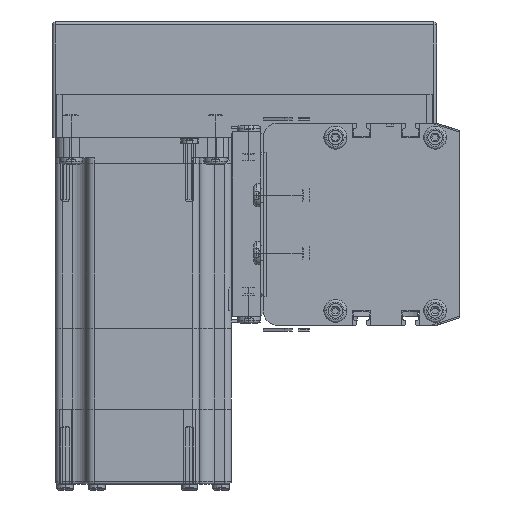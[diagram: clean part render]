
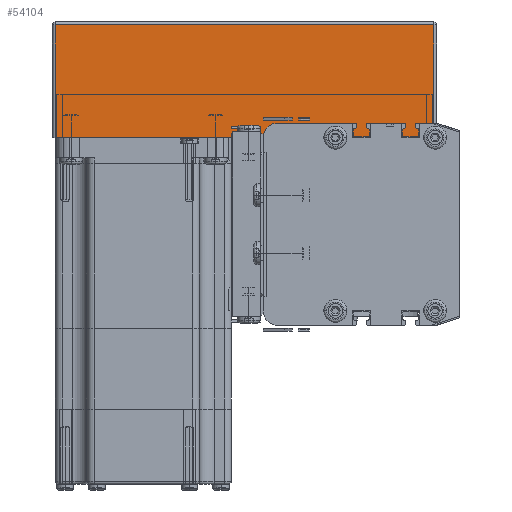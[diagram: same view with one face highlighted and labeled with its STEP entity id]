
A CAD part, left-side view. The second image highlights one B-rep face of the part: STEP entity #54104.
In plain terms, the highlighted planar face has unit normal (-1, 0, 0) as drawn and (0, -1, 0) by its records, which use the part's own axes.
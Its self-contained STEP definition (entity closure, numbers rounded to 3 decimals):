
#49416 = CARTESIAN_POINT ( 'NONE',  ( 132., 0., 39. ) ) ;
#49742 = CARTESIAN_POINT ( 'NONE',  ( 132., 0., 0. ) ) ;
#50566 = LINE ( 'NONE', #50693, #50691 ) ;
#50690 = DIRECTION ( 'NONE',  ( 1., 0., 0. ) ) ;
#50691 = VECTOR ( 'NONE', #50690, 1000. ) ;
#50693 = CARTESIAN_POINT ( 'NONE',  ( 0., 0., 0. ) ) ;
#54104 = ADVANCED_FACE ( 'NONE', ( #79396 ), #79459, .F. ) ;
#54107 = VERTEX_POINT ( 'NONE', #79451 ) ;
#54110 = EDGE_CURVE ( 'NONE', #54107, #54138, #79443, .T. ) ;
#54114 = EDGE_CURVE ( 'NONE', #55395, #55238, #79435, .T. ) ;
#54116 = ORIENTED_EDGE ( 'NONE', *, *, #54110, .T. ) ;
#54138 = VERTEX_POINT ( 'NONE', #79462 ) ;
#54150 = EDGE_CURVE ( 'NONE', #55238, #54107, #79500, .T. ) ;
#54305 = ORIENTED_EDGE ( 'NONE', *, *, #54150, .T. ) ;
#55212 = ORIENTED_EDGE ( 'NONE', *, *, #55571, .T. ) ;
#55238 = VERTEX_POINT ( 'NONE', #49416 ) ;
#55245 = EDGE_LOOP ( 'NONE', ( #54305, #54116, #55212, #55584 ) ) ;
#55395 = VERTEX_POINT ( 'NONE', #49742 ) ;
#55571 = EDGE_CURVE ( 'NONE', #54138, #55395, #50566, .T. ) ;
#55584 = ORIENTED_EDGE ( 'NONE', *, *, #54114, .T. ) ;
#79396 = FACE_OUTER_BOUND ( 'NONE', #55245, .T. ) ;
#79431 = DIRECTION ( 'NONE',  ( 0., 0., 1. ) ) ;
#79433 = VECTOR ( 'NONE', #79431, 1000. ) ;
#79434 = CARTESIAN_POINT ( 'NONE',  ( 132., 0., 40. ) ) ;
#79435 = LINE ( 'NONE', #79434, #79433 ) ;
#79440 = DIRECTION ( 'NONE',  ( 0., 0., -1. ) ) ;
#79441 = VECTOR ( 'NONE', #79440, 1000. ) ;
#79442 = CARTESIAN_POINT ( 'NONE',  ( 1., 0., 40. ) ) ;
#79443 = LINE ( 'NONE', #79442, #79441 ) ;
#79447 = DIRECTION ( 'NONE',  ( 0., 0., 1. ) ) ;
#79448 = DIRECTION ( 'NONE',  ( 0., 1., 0. ) ) ;
#79449 = CARTESIAN_POINT ( 'NONE',  ( 0., 0., 40. ) ) ;
#79451 = CARTESIAN_POINT ( 'NONE',  ( 1., 0., 39. ) ) ;
#79452 = AXIS2_PLACEMENT_3D ( 'NONE', #79449, #79448, #79447 ) ;
#79459 = PLANE ( 'NONE',  #79452 ) ;
#79462 = CARTESIAN_POINT ( 'NONE',  ( 1., 0., 0. ) ) ;
#79490 = DIRECTION ( 'NONE',  ( -1., 0., 0. ) ) ;
#79491 = VECTOR ( 'NONE', #79490, 1000. ) ;
#79499 = CARTESIAN_POINT ( 'NONE',  ( 0., 0., 39. ) ) ;
#79500 = LINE ( 'NONE', #79499, #79491 ) ;
